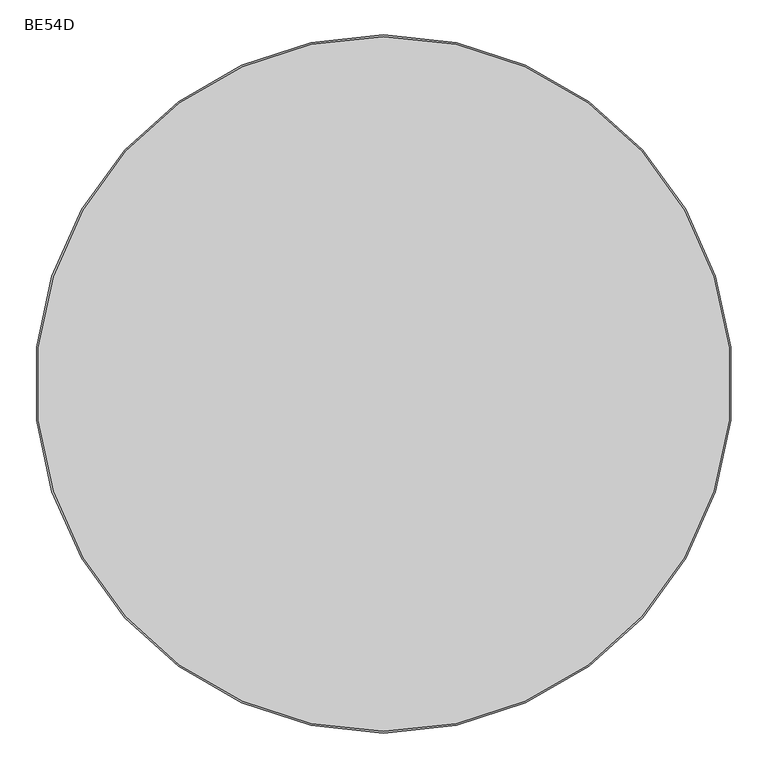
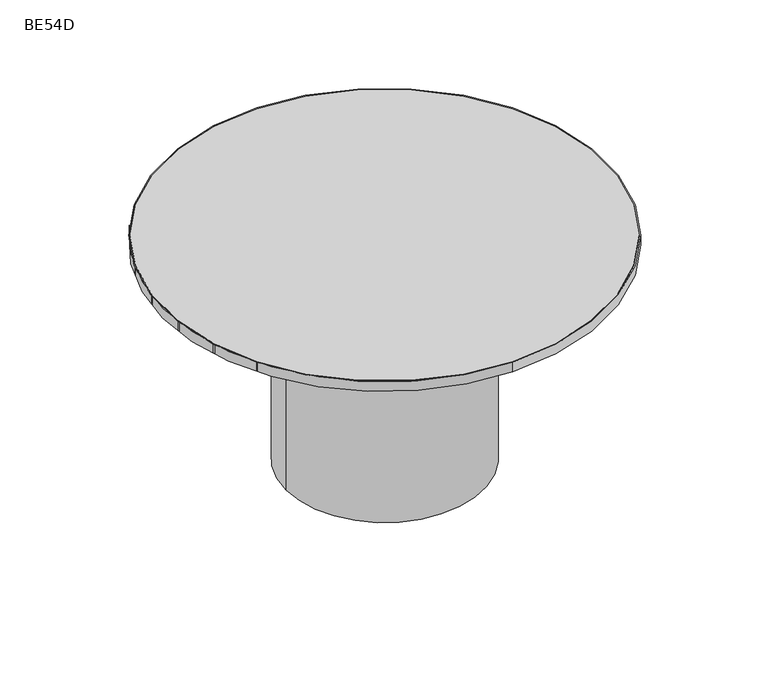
"""IFC4 building model written with IfcOpenShell, lengths in millimetres: furniture geometry, ERG-Beta-Conference_Table-Round : BE54D."""

from ifc_helpers import new_model, si_unit, point, frame, frame_2d, origin, origin_with_axes, place, context, project, spatial, circle_curve, trimmed, segment, composite_curve, outline, extrude, source, transform, mapped, element, save


def be54d_984520a6(model_context):
    return source(origin(), model_context, "Body", "SweptSolid", [
        extrude(outline(composite_curve([segment(trimmed(circle_curve(frame_2d((361.4191899, 235.232337)), 9.525), [point((351.8941899, 235.232337))], [point((370.9441899, 235.232337))], False, "CARTESIAN"), True, "CONTINUOUS"), segment(trimmed(circle_curve(frame_2d((361.4191899, 235.232337)), 9.525), [point((370.9441899, 235.232337))], [point((351.8941899, 235.232337))], False, "CARTESIAN"), True, "CONTINUOUS")], self_intersect=False)), origin_with_axes(), (0.0, 0.0, 1.0), 9.525),
        extrude(outline(composite_curve([segment(trimmed(circle_curve(frame_2d((724.4308101, 235.232337)), 9.525), [point((714.9058101, 235.232337))], [point((733.9558101, 235.232337))], False, "CARTESIAN"), True, "CONTINUOUS"), segment(trimmed(circle_curve(frame_2d((724.4308101, 235.232337)), 9.525), [point((733.9558101, 235.232337))], [point((714.9058101, 235.232337))], False, "CARTESIAN"), True, "CONTINUOUS")], self_intersect=False)), origin_with_axes(), (0.0, 0.0, 1.0), 9.525),
        extrude(outline(composite_curve([segment(trimmed(circle_curve(frame_2d((361.4191899, -127.7792831)), 9.525), [point((351.8941899, -127.7792831))], [point((370.9441899, -127.7792831))], False, "CARTESIAN"), True, "CONTINUOUS"), segment(trimmed(circle_curve(frame_2d((361.4191899, -127.7792831)), 9.525), [point((370.9441899, -127.7792831))], [point((351.8941899, -127.7792831))], False, "CARTESIAN"), True, "CONTINUOUS")], self_intersect=False)), origin_with_axes(), (0.0, 0.0, 1.0), 9.525),
        extrude(outline(composite_curve([segment(trimmed(circle_curve(frame_2d((724.4308101, -127.7792831)), 9.525), [point((714.9058101, -127.7792831))], [point((733.9558101, -127.7792831))], False, "CARTESIAN"), True, "CONTINUOUS"), segment(trimmed(circle_curve(frame_2d((724.4308101, -127.7792831)), 9.525), [point((733.9558101, -127.7792831))], [point((714.9058101, -127.7792831))], False, "CARTESIAN"), True, "CONTINUOUS")], self_intersect=False)), origin_with_axes(), (0.0, 0.0, 1.0), 9.525),
        extrude(outline(composite_curve([segment(trimmed(circle_curve(frame_2d((542.925, 53.726527)), 304.8), [point((238.125, 53.726527))], [point((847.725, 53.726527))], False, "CARTESIAN"), True, "CONTINUOUS"), segment(trimmed(circle_curve(frame_2d((542.925, 53.726527)), 304.8), [point((847.725, 53.726527))], [point((238.125, 53.726527))], False, "CARTESIAN"), True, "CONTINUOUS")], self_intersect=False)), frame((0.0, 0.0, 9.525), z_axis=(0.0, 0.0, 1.0), x_axis=(1.0, 0.0, 0.0)), (0.0, 0.0, 1.0), 695.3249758),
        extrude(outline(composite_curve([segment(trimmed(circle_curve(frame_2d((542.925, 53.726527)), 682.625), [point((542.925, -628.898473))], [point((542.925, 736.351527))], False, "CARTESIAN"), True, "CONTINUOUS"), segment(trimmed(circle_curve(frame_2d((542.925, 53.726527)), 682.625), [point((542.925, 736.351527))], [point((542.925, -628.898473))], False, "CARTESIAN"), True, "CONTINUOUS")], self_intersect=False)), frame((0.0, 0.0, 704.85), z_axis=(0.0, 0.0, 1.0), x_axis=(1.0, 0.0, 0.0)), (0.0, 0.0, 1.0), 31.75),
        extrude(outline(composite_curve([segment(trimmed(circle_curve(frame_2d((542.925, 53.726527)), 685.8), [point((542.925, -632.073473))], [point((542.925, 739.526527))], False, "CARTESIAN"), True, "CONTINUOUS"), segment(trimmed(circle_curve(frame_2d((542.925, 53.726527)), 685.8), [point((542.925, 739.526527))], [point((542.925, -632.073473))], False, "CARTESIAN"), True, "CONTINUOUS")], self_intersect=False), holes=[composite_curve([segment(trimmed(circle_curve(frame_2d((542.925, 53.726527)), 682.625), [point((542.925, 736.351527))], [point((542.925, -628.898473))], True, "CARTESIAN"), True, "CONTINUOUS"), segment(trimmed(circle_curve(frame_2d((542.925, 53.726527)), 682.625), [point((542.925, -628.898473))], [point((542.925, 736.351527))], True, "CARTESIAN"), True, "CONTINUOUS")], self_intersect=False)]), frame((0.0, 0.0, 704.85), z_axis=(0.0, 0.0, 1.0), x_axis=(1.0, 0.0, 0.0)), (0.0, 0.0, 1.0), 31.75),
    ])


if __name__ == "__main__":
    model = new_model("IFC4")
    model_context = context("Model", 3, world=origin())
    ifc_project = project(units=[si_unit("LENGTHUNIT", "METRE", prefix="MILLI")], contexts=[model_context])
    site = spatial("IfcSite", under=ifc_project)
    building = spatial("IfcBuilding", under=site)
    placement = place(None, origin())
    be54d_shape = be54d_984520a6(model_context)
    element("IfcFurniture", 1, ObjectType="ERG-Beta-Conference_Table-Round : BE54D", at=placement, inside=building, context=model_context, shape_type="MappedRepresentation", body=[
        mapped(be54d_shape, transform((0.0, 0.0, 0.0), x_axis=(1.0, 0.0, 0.0), y_axis=(0.0, 1.0, 0.0), z_axis=(0.0, 0.0, 1.0))),
    ])
    save(model, "model.ifc")
